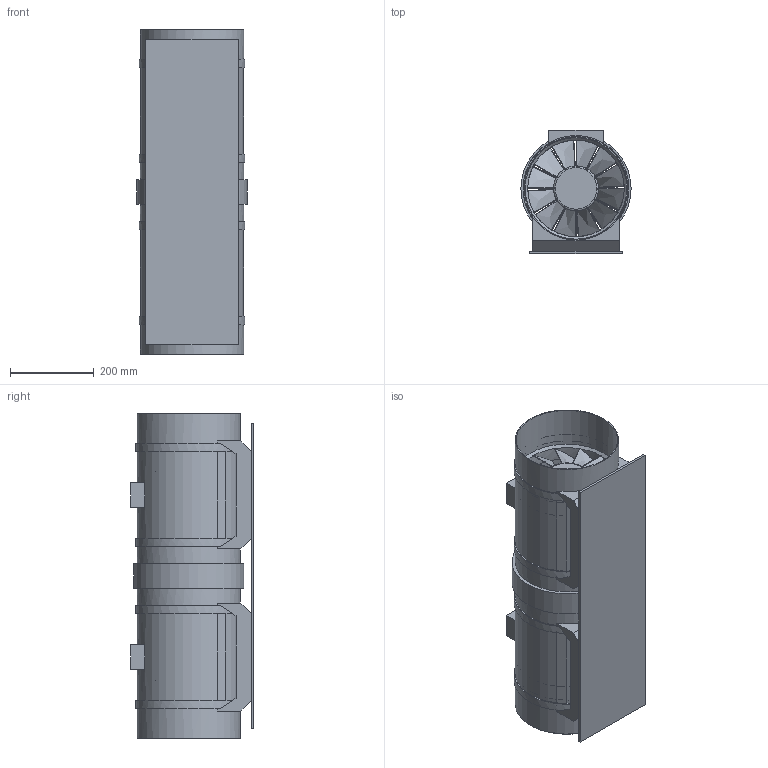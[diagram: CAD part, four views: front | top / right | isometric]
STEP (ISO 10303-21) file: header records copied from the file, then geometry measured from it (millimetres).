
FILE_DESCRIPTION(/* description */ (''),/* implementation_level */ '2;1');
FILE_NAME(/* name */ 'Z:\Output\MVZ__250_-06063-001.stp',/* time_stamp */ '2017-07-19T17:59:59+02:00',/* author */ ('engineering1'),/* organization */ (''),/* preprocessor_version */ 'ST-DEVELOPER v16.5',/* originating_system */ 'Autodesk Inventor 2017',/* authorisation */ '');
FILE_SCHEMA (('AUTOMOTIVE_DESIGN { 1 0 10303 214 3 1 1 }'));
Length unit declared in the file: millimetre
Products named in the file (1): MV-2
Bounding box: 263.47 x 294 x 775 mm (x, y, z)
Volume: 5221523.9 mm3; surface area: 1937793 mm2
Topology: 1 solids, 1 shells, 294 faces, 874 edges, 536 vertices
Faces by surface type: plane 108, bspline 96, cylinder 60, torus 24, cone 6
Full cylindrical faces by diameter (mm): 107.5 x2, 243 x3, 247 x4, 253 x4, 263.467 x1
Entity records: 12113 total; most frequent: CARTESIAN_POINT 4557, ORIENTED_EDGE 1684, DIRECTION 1298, EDGE_CURVE 842, VERTEX_POINT 522, AXIS2_PLACEMENT_3D 471, LINE 356, VECTOR 356
